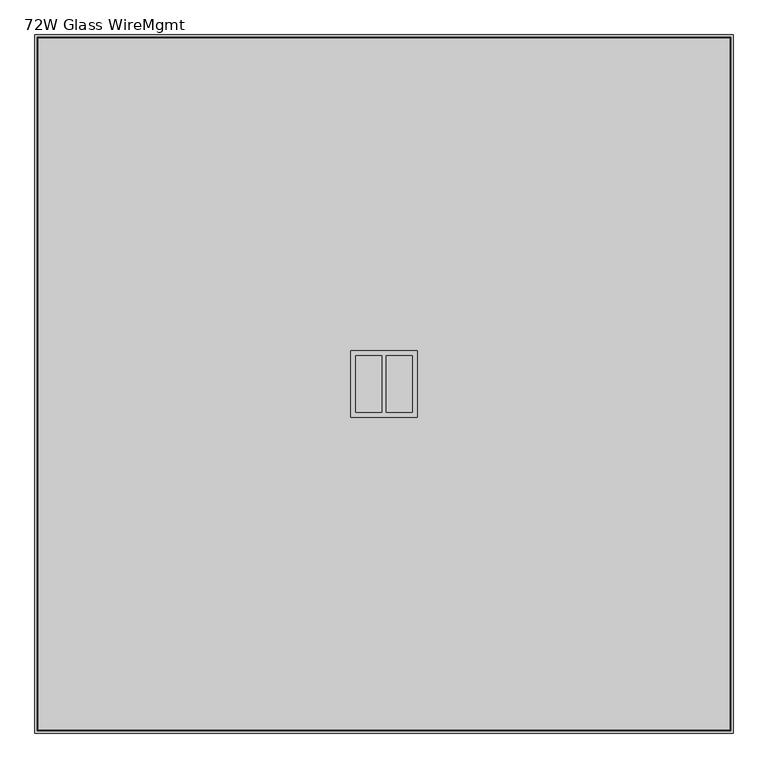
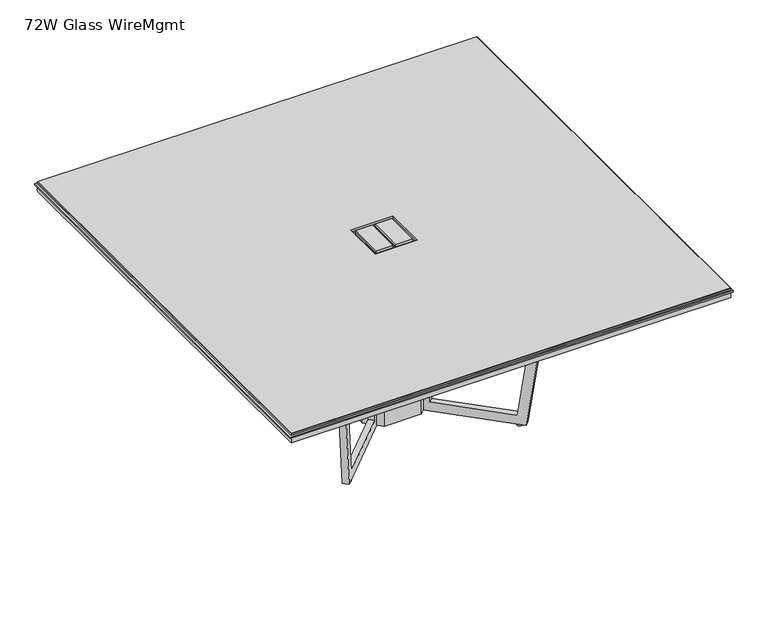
"""IFC4 building model written with IfcOpenShell, lengths in millimetres: furniture geometry, Knoll_Datesweiser_Tables_Meeting_Highline_Square : 72W Glass WireMgmt."""

from ifc_helpers import new_model, si_unit, point, frame, frame_2d, origin, origin_with_axes, place, context, project, spatial, polyline, circle_curve, trimmed, segment, composite_curve, outline, extrude, faceted_brep, source, transform, mapped, element, save


def furniture_72w_glass_wiremgmt_d9957c21(model_context):
    return source(origin(), model_context, "Body", "SolidModel", [
        extrude(outline(polyline([(914.4, 914.4), (914.4, -914.4), (-914.4, -914.4), (-914.4, 914.4), (914.4, 914.4)])), frame((0.0, 0.0, 698.5), z_axis=(0.0, 0.0, 1.0), x_axis=(1.0, 0.0, 0.0)), (0.0, 0.0, 1.0), 25.4),
        extrude(outline(polyline([(920.75, 920.75), (920.75, -920.75), (-920.75, -920.75), (-920.75, 920.75), (920.75, 920.75)]), holes=[polyline([(-87.3125, -87.3125), (87.3125, -87.3125), (87.3125, 87.3125), (-87.3125, 87.3125), (-87.3125, -87.3125)])]), frame((0.0, 0.0, 723.9), z_axis=(0.0, 0.0, 1.0), x_axis=(1.0, 0.0, 0.0)), (0.0, 0.0, 1.0), 6.35),
        extrude(outline(polyline([(6.35, -74.6125), (6.35, 74.6125), (74.6125, 74.6125), (74.6125, -74.6125), (6.35, -74.6125)])), frame((0.0, 0.0, 723.9), z_axis=(0.0, 0.0, 1.0), x_axis=(1.0, 0.0, 0.0)), (0.0, 0.0, 1.0), 6.35),
        extrude(outline(polyline([(-6.35, 74.6125), (-6.35, -74.6125), (-74.6125, -74.6125), (-74.6125, 74.6125), (-6.35, 74.6125)])), frame((0.0, 0.0, 723.9), z_axis=(0.0, 0.0, 1.0), x_axis=(1.0, 0.0, 0.0)), (0.0, 0.0, 1.0), 6.35),
        faceted_brep([(-914.4, 914.4, 738.759), (-914.4, 914.4, 731.266), (-914.4, -914.4, 731.266), (-914.4, -914.4, 738.759), (-913.384, -913.384, 739.775), (-913.384, 913.384, 739.775), (-913.384, 913.384, 730.25), (-913.384, -913.384, 730.25), (914.4, -914.4, 731.266), (914.4, -914.4, 738.759), (913.384, -913.384, 739.775), (913.384, -913.384, 730.25), (914.4, 914.4, 731.266), (914.4, 914.4, 738.759), (913.384, 913.384, 739.775), (913.384, 913.384, 730.25), (87.3125, -87.3125, 739.775), (-87.3125, -87.3125, 739.775), (-87.3125, 87.3125, 739.775), (87.3125, 87.3125, 739.775), (-87.3125, -87.3125, 730.25), (87.3125, -87.3125, 730.25), (87.3125, 87.3125, 730.25), (-87.3125, 87.3125, 730.25)], [[[0, 1, 2, 3]], [[0, 3, 4, 5]], [[2, 1, 6, 7]], [[3, 2, 8, 9]], [[4, 3, 9, 10]], [[2, 7, 11, 8]], [[9, 8, 12, 13]], [[10, 9, 13, 14]], [[8, 11, 15, 12]], [[1, 0, 13, 12]], [[0, 5, 14, 13]], [[6, 1, 12, 15]], [[5, 4, 10, 14], [16, 17, 18, 19]], [[7, 6, 15, 11], [20, 21, 22, 23]], [[16, 21, 20, 17]], [[17, 20, 23, 18]], [[18, 23, 22, 19]], [[21, 16, 19, 22]]]),
        faceted_brep([(6.35, 74.6125, 739.775), (6.35, -74.6125, 739.775), (74.6125, -74.6125, 739.775), (74.6125, 74.6125, 739.775), (6.35, -74.6125, 730.25), (6.35, 74.6125, 730.25), (74.6125, 74.6125, 730.25), (74.6125, -74.6125, 730.25)], [[[0, 1, 2, 3]], [[4, 5, 6, 7]], [[0, 5, 4, 1]], [[1, 4, 7, 2]], [[2, 7, 6, 3]], [[5, 0, 3, 6]]]),
        faceted_brep([(-6.35, -74.6125, 739.775), (-6.35, 74.6125, 739.775), (-74.6125, 74.6125, 739.775), (-74.6125, -74.6125, 739.775), (-6.35, 74.6125, 730.25), (-6.35, -74.6125, 730.25), (-74.6125, -74.6125, 730.25), (-74.6125, 74.6125, 730.25)], [[[0, 1, 2, 3]], [[4, 5, 6, 7]], [[0, 5, 4, 1]], [[1, 4, 7, 2]], [[2, 7, 6, 3]], [[5, 0, 3, 6]]]),
        extrude(outline(composite_curve([segment(trimmed(circle_curve(frame_2d((-357.9481367, -357.9481367)), 12.7), [point((-345.2481367, -357.9481367))], [point((-370.6481367, -357.9481367))], False, "CARTESIAN"), True, "CONTINUOUS"), segment(trimmed(circle_curve(frame_2d((-357.9481367, -357.9481367)), 12.7), [point((-370.6481367, -357.9481367))], [point((-345.2481367, -357.9481367))], False, "CARTESIAN"), True, "CONTINUOUS")], self_intersect=False)), origin_with_axes(), (0.0, 0.0, 1.0), 5.9867797),
        extrude(outline(composite_curve([segment(trimmed(circle_curve(frame_2d((-357.9481367, 357.9481367)), 12.7), [point((-345.2481367, 357.9481367))], [point((-370.6481367, 357.9481367))], False, "CARTESIAN"), True, "CONTINUOUS"), segment(trimmed(circle_curve(frame_2d((-357.9481367, 357.9481367)), 12.7), [point((-370.6481367, 357.9481367))], [point((-345.2481367, 357.9481367))], False, "CARTESIAN"), True, "CONTINUOUS")], self_intersect=False)), origin_with_axes(), (0.0, 0.0, 1.0), 5.9867797),
        extrude(outline(composite_curve([segment(trimmed(circle_curve(frame_2d((357.9481367, -357.9481367)), 12.7), [point((370.6481367, -357.9481367))], [point((345.2481367, -357.9481367))], False, "CARTESIAN"), True, "CONTINUOUS"), segment(trimmed(circle_curve(frame_2d((357.9481367, -357.9481367)), 12.7), [point((345.2481367, -357.9481367))], [point((370.6481367, -357.9481367))], False, "CARTESIAN"), True, "CONTINUOUS")], self_intersect=False)), origin_with_axes(), (0.0, 0.0, 1.0), 5.9867797),
        extrude(outline(composite_curve([segment(trimmed(circle_curve(frame_2d((357.9481367, 357.9481367)), 12.7), [point((370.6481367, 357.9481367))], [point((345.2481367, 357.9481367))], False, "CARTESIAN"), True, "CONTINUOUS"), segment(trimmed(circle_curve(frame_2d((357.9481367, 357.9481367)), 12.7), [point((345.2481367, 357.9481367))], [point((370.6481367, 357.9481367))], False, "CARTESIAN"), True, "CONTINUOUS")], self_intersect=False)), origin_with_axes(), (0.0, 0.0, 1.0), 5.9867797),
        faceted_brep([(-105.5180417, 87.5575295, 698.5000242), (-132.4542329, 114.4937206, 698.5000242), (-132.4542329, 114.4937206, 44.0867803), (-362.731756, 344.7712438, 44.0867803), (-427.7656237, 409.8051114, 698.5000242), (-454.9711667, 437.0106545, 698.5000242), (-386.1246404, 368.1641282, 5.7213276), (-115.3405838, 97.3800716, 6.2173274), (-115.3405838, 97.3800716, 679.2551774), (-105.5179146, 87.5574023, 679.2551774), (368.1641282, -386.1246404, 5.7213276), (437.0106545, -454.9711667, 698.5000242), (409.8051114, -427.7656237, 698.5000242), (344.7712438, -362.731756, 44.0867803), (114.4937206, -132.4542329, 44.0867803), (114.4937206, -132.4542329, 698.5000242), (87.5575295, -105.5180417, 698.5000242), (87.5574023, -105.5179146, 679.2551774), (97.3800716, -115.3405838, 679.2551774), (97.3800716, -115.3405838, 6.2173274), (-368.1641282, 386.1246404, 5.7213276), (-437.0106545, 454.9711667, 698.5000242), (-409.8051114, 427.7656237, 698.5000242), (-344.7712438, 362.731756, 44.0867803), (-114.4937206, 132.4542329, 44.0867803), (-114.4937206, 132.4542329, 698.5000242), (-87.5575295, 105.5180417, 698.5000242), (-87.5574023, 105.5179146, 679.2551774), (-97.3800759, 115.3405882, 679.2551774), (-97.3800759, 115.3405882, 6.2173274), (105.5180417, -87.5575295, 698.5000242), (132.4542329, -114.4937206, 698.5000242), (132.4542329, -114.4937206, 44.0867803), (362.731756, -344.7712438, 44.0867803), (427.7656237, -409.8051114, 698.5000242), (454.9711667, -437.0106545, 698.5000242), (386.1246404, -368.1641282, 5.7213276), (115.3405882, -97.3800759, 6.2173274), (115.3405882, -97.3800759, 679.2551774), (105.5179146, -87.5574023, 679.2551774), (-134.8689207, 77.8517251, 679.2551774), (-134.8689207, -77.8517528, 679.2551774), (-77.8517251, -134.8689207, 679.2551774), (77.8517251, -134.8689207, 679.2551774), (134.8689207, -77.8517528, 679.2551774), (134.8689207, 77.8517251, 679.2551774), (77.8517528, 134.8689207, 679.2551774), (-77.8517528, 134.8689207, 679.2551774), (-134.8689207, 77.8517251, 5.8810183), (-77.8517528, 134.8689207, 5.8810183), (77.8517528, 134.8689207, 5.8810183), (134.8689207, 77.8517251, 5.8810183), (134.8689207, -77.8517528, 5.8810183), (77.8517251, -134.8689207, 5.8810183), (-77.8517251, -134.8689207, 5.8810183), (-134.8689207, -77.8517528, 5.8810183)], [[[0, 1, 2, 3, 4, 5, 6, 7, 8, 9]], [[10, 11, 12, 13, 14, 15, 16, 17, 18, 19]], [[20, 21, 22, 23, 24, 25, 26, 27, 28, 29]], [[30, 31, 32, 33, 34, 35, 36, 37, 38, 39]], [[3, 2, 24, 23]], [[4, 3, 23, 22]], [[5, 4, 22, 21]], [[6, 5, 21, 20]], [[6, 20, 29, 7]], [[26, 0, 9, 27]], [[1, 0, 26, 25]], [[2, 1, 25, 24]], [[36, 10, 19, 37]], [[11, 10, 36, 35]], [[12, 11, 35, 34]], [[13, 12, 34, 33]], [[14, 13, 33, 32]], [[15, 14, 32, 31]], [[16, 15, 31, 30]], [[16, 30, 39, 17]], [[40, 41, 42, 43, 18, 17, 39, 38, 44, 45, 46, 47, 28, 27, 9, 8]], [[48, 49, 50, 51, 52, 53, 54, 55]], [[41, 40, 48, 55]], [[42, 41, 55, 54]], [[43, 42, 54, 53]], [[53, 52, 44, 38, 37, 19, 18, 43]], [[45, 44, 52, 51]], [[46, 45, 51, 50]], [[47, 46, 50, 49]], [[49, 48, 40, 8, 7, 29, 28, 47]]]),
        extrude(outline(polyline([(687.3294598, 0.0), (687.8397529, -396.8441293), (-4.9398532, -494.2013488), (-4.9394938, -455.7269008), (649.4746093, -363.7612365), (649.4776515, -38.0996402), (-4.9355924, -38.0935268), (-4.9352365, 0.0), (687.3294598, 0.0)])), frame((105.5180091, 87.5574969, 693.5647877), z_axis=(-0.7071067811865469, 0.7071067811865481, 0.0), x_axis=(-6.605612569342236e-06, -6.605612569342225e-06, -0.9999999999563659)), (0.0, 0.0, 1.0), 25.4),
        extrude(outline(polyline([(687.3320105, 273.0371574), (-4.9326857, 273.0500913), (-4.9323299, 311.1436182), (649.480914, 311.1375048), (649.4839562, 636.7991012), (-4.9284285, 728.7769922), (-4.928069, 767.2514401), (687.849718, 669.8812771), (687.3320105, 273.0371574)])), frame((105.5180091, 87.5574969, 693.5647877), z_axis=(-0.7071067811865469, 0.7071067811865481, 0.0), x_axis=(-6.605612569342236e-06, -6.605612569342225e-06, -0.9999999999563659)), (0.0, 0.0, 1.0), 25.4),
    ])


if __name__ == "__main__":
    model = new_model("IFC4")
    model_context = context("Model", 3, world=origin())
    ifc_project = project(units=[si_unit("LENGTHUNIT", "METRE", prefix="MILLI")], contexts=[model_context])
    site = spatial("IfcSite", under=ifc_project)
    building = spatial("IfcBuilding", under=site)
    placement = place(None, origin())
    furniture_72w_glass_wiremgmt_shape = furniture_72w_glass_wiremgmt_d9957c21(model_context)
    element("IfcFurniture", 1, ObjectType="Knoll_Datesweiser_Tables_Meeting_Highline_Square : 72W Glass WireMgmt", at=placement, inside=building, context=model_context, shape_type="MappedRepresentation", body=[
        mapped(furniture_72w_glass_wiremgmt_shape, transform((0.0, 0.0, 0.0), x_axis=(1.0, 0.0, 0.0), y_axis=(0.0, 1.0, 0.0), z_axis=(0.0, 0.0, 1.0))),
    ])
    save(model, "model.ifc")
